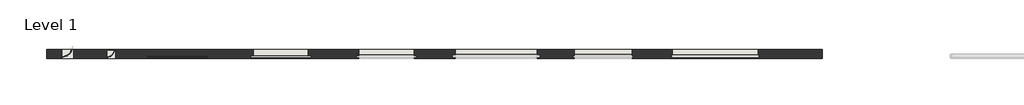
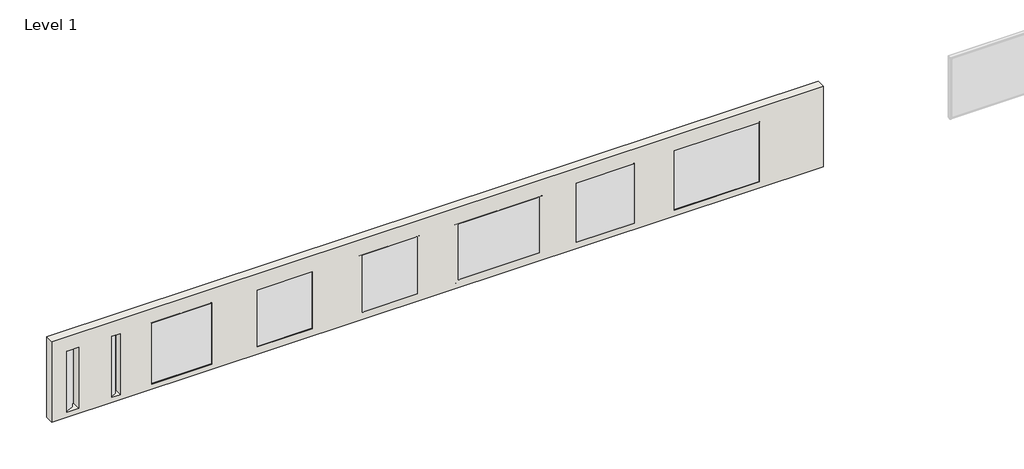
# One storey, part 1 of 2: 1 wall.
"""IFC4 building model written with IfcOpenShell, lengths in millimetres."""

from ifc_helpers import new_model, si_unit, frame, origin, place, context, project, spatial, polyline, circle_curve, element, save
from ifc_brep_helpers import plane_surface, cylinder_surface, revolved_surface, advanced_brep

model = new_model("IFC4")

# Units and contexts
model_context = context("Model", 3, world=origin())
ifc_project = project(units=[si_unit("LENGTHUNIT", "METRE", prefix="MILLI")], contexts=[model_context])

# Site, building, storey
site = spatial("IfcSite", under=ifc_project)
building = spatial("IfcBuilding", under=site)
storey = spatial("IfcBuildingStorey", under=building, Name="Level 1", Elevation=0.0)

# Wall
placement = place(None, origin())
element("IfcWall", 1, ObjectType="Exterior - Brick on Mtl. Stud", at=placement, inside=storey, context=model_context, shape_type="AdvancedBrep", body=[
    advanced_brep(
    [(-29372.0824741, 7342.6185098, 0.0), (1427.9175259, 7342.6185098, 0.0), (1427.9175259, 7342.6185098, 3397.25), (-29372.0824741, 7342.6185098, 3397.25), (-16976.2824741, 7342.6185098, 2703.5), (-14767.8824741, 7342.6185098, 2703.5), (-14767.8824741, 7342.6185098, 296.5), (-16976.2824741, 7342.6185098, 296.5), (-13146.2824741, 7342.6185098, 2673.5), (-9897.8824741, 7342.6185098, 2673.5), (-9897.8824741, 7342.6185098, 326.5), (-13146.2824741, 7342.6185098, 326.5), (-8426.2824741, 7342.6185098, 2754.2), (-6117.8824741, 7342.6185098, 2754.2), (-6117.8824741, 7342.6185098, 245.8), (-8426.2824741, 7342.6185098, 245.8), (-4522.0824741, 7342.6185098, 2750.0), (-1122.0824741, 7342.6185098, 2750.0), (-1122.0824741, 7342.6185098, 250.0), (-4522.0824741, 7342.6185098, 250.0), (-21172.0824741, 7342.6185098, 2700.0), (-18972.0824741, 7342.6185098, 2700.0), (-18972.0824741, 7342.6185098, 300.0), (-21172.0824741, 7342.6185098, 300.0), (-25372.0824741, 7342.6185098, 200.0), (-25372.0824741, 7342.6185098, 2774.5), (-22972.0824741, 7342.6185098, 2774.5), (-22972.0824741, 7342.6185098, 200.0), (-26972.0824741, 7342.6185098, 200.0), (-26972.0824741, 7342.6185098, 2774.5), (-26945.7955953, 7342.6185098, 2774.5), (-26945.7955953, 7342.6185098, 2770.0), (-26627.0824741, 7342.6185098, 2770.0), (-26627.0824741, 7342.6185098, 200.0), (-28772.0824741, 7342.6185098, 200.0), (-28772.0824741, 7342.6185098, 2774.5), (-28740.9216012, 7342.6185098, 2774.5), (-28740.9216012, 7342.6185098, 2770.0), (-28287.0824741, 7342.6185098, 2770.0), (-28287.0824741, 7342.6185098, 200.0), (1427.9175259, 7692.6185098, 0.0), (-29372.0824741, 7692.6185098, 0.0), (-29372.0824741, 7692.6185098, 3397.25), (1427.9175259, 7692.6185098, 3397.25), (-14767.8824741, 7692.6185098, 2703.5), (-16976.2824741, 7692.6185098, 2703.5), (-16976.2824741, 7692.6185098, 296.5), (-14767.8824741, 7692.6185098, 296.5), (-9897.8824741, 7692.6185098, 2673.5), (-13146.2824741, 7692.6185098, 2673.5), (-13146.2824741, 7692.6185098, 326.5), (-9897.8824741, 7692.6185098, 326.5), (-6117.8824741, 7692.6185098, 2754.2), (-8426.2824741, 7692.6185098, 2754.2), (-8426.2824741, 7692.6185098, 245.8), (-6117.8824741, 7692.6185098, 245.8), (-1122.0824741, 7692.6185098, 2750.0), (-4522.0824741, 7692.6185098, 2750.0), (-4522.0824741, 7692.6185098, 250.0), (-1122.0824741, 7692.6185098, 250.0), (-28772.0824741, 7692.6185098, 2770.0), (-28772.0824741, 7692.6185098, 200.0), (-28287.0824741, 7692.6185098, 200.0), (-28287.0824741, 7692.6185098, 2770.0), (-28305.2088296, 7692.6185098, 2770.0), (-28305.2088296, 7692.6185098, 2774.5), (-28331.8152257, 7692.6185098, 2774.5), (-28331.8152257, 7692.6185098, 2800.0), (-28374.8983229, 7692.6185098, 2800.0), (-28374.8983229, 7692.6185098, 2774.5), (-28400.8682503, 7692.6185098, 2774.5), (-28400.8682503, 7692.6185098, 2770.0), (-18972.0824741, 7692.6185098, 2700.0), (-21172.0824741, 7692.6185098, 2700.0), (-21172.0824741, 7692.6185098, 300.0), (-18972.0824741, 7692.6185098, 300.0), (-17072.0824741, 7463.1185098, 2800.0), (-17072.0824741, 7363.1185098, 2800.0), (-17072.0824741, 7363.1185098, 200.0), (-17072.0824741, 7463.1185098, 200.0), (-14672.0824741, 7363.1185098, 2800.0), (-14672.0824741, 7463.1185098, 2800.0), (-14672.0824741, 7463.1185098, 200.0), (-14672.0824741, 7363.1185098, 200.0), (-16976.2824741, 7463.1185098, 2703.5), (-14767.8824741, 7463.1185098, 2703.5), (-14767.8824741, 7463.1185098, 296.5), (-16976.2824741, 7463.1185098, 296.5), (-14767.8824741, 7363.1185098, 2703.5), (-16976.2824741, 7363.1185098, 2703.5), (-16976.2824741, 7363.1185098, 296.5), (-14767.8824741, 7363.1185098, 296.5), (-13272.0824741, 7493.1185097, 2800.0), (-13272.0824741, 7363.1185097, 2800.0), (-13272.0824741, 7363.1185097, 200.0), (-13272.0824741, 7493.1185097, 200.0), (-9772.0824741, 7363.1185097, 2800.0), (-9772.0824741, 7493.1185097, 2800.0), (-9772.0824741, 7493.1185097, 200.0), (-9772.0824741, 7363.1185097, 200.0), (-13146.2824741, 7493.1185097, 2673.5), (-9897.8824741, 7493.1185097, 2673.5), (-9897.8824741, 7493.1185097, 326.5), (-13146.2824741, 7493.1185097, 326.5), (-9897.8824741, 7363.1185097, 2673.5), (-13146.2824741, 7363.1185097, 2673.5), (-13146.2824741, 7363.1185097, 326.5), (-9897.8824741, 7363.1185097, 326.5), (-8472.0824741, 7467.6185098, 2800.0), (-8472.0824741, 7367.6185098, 2800.0), (-8472.0824741, 7367.6185098, 200.0), (-8472.0824741, 7467.6185098, 200.0), (-6072.0824741, 7367.6185098, 2800.0), (-6072.0824741, 7467.6185098, 2800.0), (-6072.0824741, 7467.6185098, 200.0), (-6072.0824741, 7367.6185098, 200.0), (-8426.2824741, 7467.6185098, 2754.2), (-6117.8824741, 7467.6185098, 2754.2), (-6117.8824741, 7467.6185098, 245.8), (-8426.2824741, 7467.6185098, 245.8), (-6117.8824741, 7367.6185098, 2754.2), (-8426.2824741, 7367.6185098, 2754.2), (-8426.2824741, 7367.6185098, 245.8), (-6117.8824741, 7367.6185098, 245.8), (-4572.0824741, 7493.1185097, 2800.0), (-4572.0824741, 7363.1185097, 2800.0), (-4572.0824741, 7363.1185097, 200.0), (-4572.0824741, 7493.1185097, 200.0), (-1072.0824741, 7363.1185097, 2800.0), (-1072.0824741, 7493.1185097, 2800.0), (-1072.0824741, 7493.1185097, 200.0), (-1072.0824741, 7363.1185097, 200.0), (-4522.0824741, 7493.1185097, 2750.0), (-1122.0824741, 7493.1185097, 2750.0), (-1122.0824741, 7493.1185097, 250.0), (-4522.0824741, 7493.1185097, 250.0), (-1122.0824741, 7363.1185097, 2750.0), (-4522.0824741, 7363.1185097, 2750.0), (-4522.0824741, 7363.1185097, 250.0), (-1122.0824741, 7363.1185097, 250.0), (-21272.0824741, 7463.1185098, 2800.0), (-21272.0824741, 7363.1185098, 2800.0), (-21272.0824741, 7363.1185098, 200.0), (-21272.0824741, 7463.1185098, 200.0), (-18872.0824741, 7363.1185098, 2800.0), (-18872.0824741, 7463.1185098, 2800.0), (-18872.0824741, 7463.1185098, 200.0), (-18872.0824741, 7363.1185098, 200.0), (-21172.0824741, 7463.1185098, 2700.0), (-18972.0824741, 7463.1185098, 2700.0), (-18972.0824741, 7463.1185098, 300.0), (-21172.0824741, 7463.1185098, 300.0), (-18972.0824741, 7363.1185098, 2700.0), (-21172.0824741, 7363.1185098, 2700.0), (-21172.0824741, 7363.1185098, 300.0), (-18972.0824741, 7363.1185098, 300.0), (-25372.0824741, 7432.6185098, 2774.5), (-25372.0824741, 7408.3100466, 2774.5), (-25372.0824741, 7408.3100466, 2800.0), (-25372.0824741, 7408.1185098, 2800.0), (-25372.0824741, 7367.1185098, 2800.0), (-25372.0824741, 7355.8473523, 2800.0), (-25372.0824741, 7355.8473523, 2774.5), (-25372.0824741, 7367.1185098, 200.0), (-25372.0824741, 7408.1185098, 200.0), (-25372.0824741, 7432.6185098, 200.0), (-22972.0824741, 7432.6185098, 2774.5), (-22972.0824741, 7432.6185098, 200.0), (-22972.0824741, 7408.1185098, 200.0), (-22972.0824741, 7367.1185098, 200.0), (-22972.0824741, 7355.8473523, 2774.5), (-22972.0824741, 7355.8473523, 2800.0), (-22972.0824741, 7367.1185098, 2800.0), (-22972.0824741, 7408.1185098, 2800.0), (-22972.0824741, 7408.3100466, 2800.0), (-22972.0824741, 7408.3100466, 2774.5), (-26717.0824741, 7687.6185098, 200.0), (-26717.0824741, 7688.4185098, 200.0), (-26972.0824741, 7688.4185098, 200.0), (-26627.0824741, 7661.331631, 200.0), (-26626.0824741, 7687.6185098, 200.0), (-26972.0824741, 7367.1185098, 2800.0), (-26922.0824741, 7367.1185098, 2800.0), (-26922.0824741, 7367.1185098, 2774.5), (-26972.0824741, 7367.1185098, 2774.5), (-26972.0824741, 7688.4185098, 2770.0), (-26972.0824741, 7432.6185098, 2770.0), (-26972.0824741, 7432.6185098, 2774.5), (-26972.0824741, 7408.1185098, 2774.5), (-26972.0824741, 7408.1185098, 2800.0), (-26922.0824741, 7371.0426895, 2800.0), (-26922.0824741, 7371.0426895, 2774.5), (-26651.5824741, 7637.6185098, 2800.0), (-26651.5824741, 7637.6185098, 2774.5), (-26655.5066538, 7637.6185098, 2774.5), (-26655.5066538, 7637.6185098, 2800.0), (-26651.5824741, 7687.6185098, 2800.0), (-26692.5824741, 7687.6185098, 2800.0), (-26692.5824741, 7687.6185098, 2774.5), (-26717.0824741, 7687.6185098, 2774.5), (-26717.0824741, 7687.6185098, 2770.0), (-26626.0824741, 7687.6185098, 2774.5), (-26651.5824741, 7687.6185098, 2774.5), (-26627.0824741, 7661.331631, 2770.0), (-26717.0824741, 7688.4185098, 2770.0), (-28772.0824741, 7367.1185098, 2800.0), (-28722.0824741, 7367.1185098, 2800.0), (-28722.0824741, 7367.1185098, 2774.5), (-28772.0824741, 7367.1185098, 2774.5), (-28772.0824741, 7432.6185098, 2770.0), (-28772.0824741, 7432.6185098, 2774.5), (-28772.0824741, 7408.1185098, 2774.5), (-28772.0824741, 7408.1185098, 2800.0), (-28722.0824741, 7369.8409983, 2800.0), (-28722.0824741, 7369.8409983, 2774.5)],
    [
        (0, 1),
        (1, 2),
        (2, 3),
        (3, 0),
        (4, 5),
        (5, 6),
        (6, 7),
        (7, 4),
        (8, 9),
        (9, 10),
        (10, 11),
        (11, 8),
        (12, 13),
        (13, 14),
        (14, 15),
        (15, 12),
        (16, 17),
        (17, 18),
        (18, 19),
        (19, 16),
        (20, 21),
        (21, 22),
        (22, 23),
        (23, 20),
        (24, 25),
        (25, 26),
        (26, 27),
        (27, 24),
        (28, 29),
        (29, 30),
        (30, 31),
        (31, 32),
        (32, 33),
        (33, 28),
        (34, 35),
        (35, 36),
        (36, 37),
        (37, 38),
        (38, 39),
        (39, 34),
        (40, 41),
        (41, 42),
        (42, 43),
        (43, 40),
        (44, 45),
        (45, 46),
        (46, 47),
        (47, 44),
        (48, 49),
        (49, 50),
        (50, 51),
        (51, 48),
        (52, 53),
        (53, 54),
        (54, 55),
        (55, 52),
        (56, 57),
        (57, 58),
        (58, 59),
        (59, 56),
        (60, 61),
        (61, 62),
        (62, 63),
        (63, 64),
        (64, 65),
        (65, 66),
        (66, 67),
        (67, 68),
        (68, 69),
        (69, 70),
        (70, 71),
        (71, 60),
        (72, 73),
        (73, 74),
        (74, 75),
        (75, 72),
        (0, 41),
        (40, 1),
        (43, 2),
        (42, 3),
        (76, 77),
        (77, 78),
        (78, 79),
        (79, 76),
        (80, 81),
        (81, 82),
        (82, 83),
        (83, 80),
        (76, 81),
        (80, 77),
        (79, 82),
        (84, 85),
        (85, 86),
        (86, 87),
        (87, 84),
        (83, 78),
        (88, 89),
        (89, 90),
        (90, 91),
        (91, 88),
        (84, 45),
        (44, 85),
        (87, 46),
        (86, 47),
        (88, 5),
        (4, 89),
        (7, 90),
        (6, 91),
        (92, 93),
        (93, 94),
        (94, 95),
        (95, 92),
        (96, 97),
        (97, 98),
        (98, 99),
        (99, 96),
        (92, 97),
        (96, 93),
        (95, 98),
        (100, 101),
        (101, 102),
        (102, 103),
        (103, 100),
        (99, 94),
        (104, 105),
        (105, 106),
        (106, 107),
        (107, 104),
        (100, 49),
        (48, 101),
        (103, 50),
        (102, 51),
        (104, 9),
        (8, 105),
        (11, 106),
        (10, 107),
        (108, 109),
        (109, 110),
        (110, 111),
        (111, 108),
        (112, 113),
        (113, 114),
        (114, 115),
        (115, 112),
        (108, 113),
        (112, 109),
        (111, 114),
        (116, 117),
        (117, 118),
        (118, 119),
        (119, 116),
        (115, 110),
        (120, 121),
        (121, 122),
        (122, 123),
        (123, 120),
        (116, 53),
        (52, 117),
        (119, 54),
        (118, 55),
        (120, 13),
        (12, 121),
        (15, 122),
        (14, 123),
        (124, 125),
        (125, 126),
        (126, 127),
        (127, 124),
        (128, 129),
        (129, 130),
        (130, 131),
        (131, 128),
        (124, 129),
        (128, 125),
        (127, 130),
        (132, 133),
        (133, 134),
        (134, 135),
        (135, 132),
        (131, 126),
        (136, 137),
        (137, 138),
        (138, 139),
        (139, 136),
        (132, 57),
        (56, 133),
        (135, 58),
        (134, 59),
        (136, 17),
        (16, 137),
        (19, 138),
        (18, 139),
        (140, 141),
        (141, 142),
        (142, 143),
        (143, 140),
        (144, 145),
        (145, 146),
        (146, 147),
        (147, 144),
        (140, 145),
        (144, 141),
        (143, 146),
        (148, 149),
        (149, 150),
        (150, 151),
        (151, 148),
        (147, 142),
        (152, 153),
        (153, 154),
        (154, 155),
        (155, 152),
        (148, 73),
        (72, 149),
        (152, 21),
        (20, 153),
        (156, 157),
        (157, 158),
        (158, 159),
        (159, 160),
        (160, 161),
        (161, 162),
        (162, 25),
        (24, 163),
        (163, 164),
        (164, 165),
        (165, 156),
        (166, 167),
        (167, 168),
        (168, 169),
        (169, 27),
        (26, 170),
        (170, 171),
        (171, 172),
        (172, 173),
        (173, 174),
        (174, 175),
        (175, 166),
        (165, 167),
        (166, 156),
        (162, 170),
        (161, 171),
        (158, 174),
        (157, 175),
        (176, 177),
        (177, 178),
        (178, 28),
        (33, 179),
        (179, 180, circle_curve(frame((-26972.0824741, 7687.6185098, 200.0), z_axis=(0.0, 0.0, 1.0), x_axis=(0.0, -1.0, 0.0)), 346.0)),
        (180, 176),
        (181, 182),
        (182, 183),
        (183, 184),
        (184, 181),
        (184, 29),
        (178, 185),
        (185, 186),
        (186, 187),
        (187, 188),
        (188, 189),
        (189, 181),
        (182, 190),
        (190, 191),
        (191, 183),
        (192, 193),
        (193, 194),
        (194, 195),
        (195, 192),
        (196, 197),
        (197, 198),
        (198, 199),
        (199, 200),
        (200, 176),
        (180, 201),
        (201, 202),
        (202, 196),
        (192, 196),
        (202, 193),
        (189, 197, circle_curve(frame((-26972.0824741, 7687.6185098, 2800.0), z_axis=(0.0, 0.0, 1.0), x_axis=(0.0, -1.0, 0.0)), 279.5)),
        (195, 190, circle_curve(frame((-26972.0824741, 7687.6185098, 2800.0), z_axis=(0.0, 0.0, -1.0), x_axis=(0.0, -1.0, 0.0)), 320.5)),
        (30, 201, circle_curve(frame((-26972.0824741, 7687.6185098, 2774.5), z_axis=(0.0, 0.0, 1.0), x_axis=(0.0, -1.0, 0.0)), 346.0)),
        (179, 203),
        (203, 31, circle_curve(frame((-26972.0824741, 7687.6185098, 2770.0), z_axis=(0.0, 0.0, -1.0), x_axis=(0.0, -1.0, 0.0)), 346.0)),
        (191, 194, circle_curve(frame((-26972.0824741, 7687.6185098, 2774.5), z_axis=(0.0, 0.0, 1.0), x_axis=(0.0, -1.0, 0.0)), 320.5)),
        (188, 198, circle_curve(frame((-26972.0824741, 7687.6185098, 2774.5), z_axis=(0.0, 0.0, 1.0), x_axis=(0.0, -1.0, 0.0)), 279.5)),
        (187, 199, circle_curve(frame((-26972.0824741, 7687.6185098, 2774.5), z_axis=(0.0, 0.0, 1.0), x_axis=(0.0, -1.0, 0.0)), 255.0)),
        (186, 200, circle_curve(frame((-26972.0824741, 7687.6185098, 2770.0), z_axis=(0.0, 0.0, 1.0), x_axis=(0.0, -1.0, 0.0)), 255.0)),
        (185, 204),
        (204, 200),
        (203, 32),
        (177, 204),
        (61, 34),
        (39, 62),
        (205, 206),
        (206, 207),
        (207, 208),
        (208, 205),
        (208, 35),
        (60, 209),
        (209, 210),
        (210, 211),
        (211, 212),
        (212, 205),
        (206, 213),
        (213, 214),
        (214, 207),
        (212, 68, circle_curve(frame((-28772.0824741, 7827.6185098, 2800.0), z_axis=(0.0, 0.0, 1.0), x_axis=(0.0, -1.0, 0.0)), 419.5)),
        (67, 213, circle_curve(frame((-28772.0824741, 7827.6185098, 2800.0), z_axis=(0.0, 0.0, -1.0), x_axis=(0.0, -1.0, 0.0)), 460.5)),
        (36, 65, circle_curve(frame((-28772.0824741, 7827.6185098, 2774.5), z_axis=(0.0, 0.0, 1.0), x_axis=(0.0, -1.0, 0.0)), 486.0)),
        (64, 37, circle_curve(frame((-28772.0824741, 7827.6185098, 2770.0), z_axis=(0.0, 0.0, -1.0), x_axis=(0.0, -1.0, 0.0)), 486.0)),
        (214, 66, circle_curve(frame((-28772.0824741, 7827.6185098, 2774.5), z_axis=(0.0, 0.0, 1.0), x_axis=(0.0, -1.0, 0.0)), 460.5)),
        (211, 69, circle_curve(frame((-28772.0824741, 7827.6185098, 2774.5), z_axis=(0.0, 0.0, 1.0), x_axis=(0.0, -1.0, 0.0)), 419.5)),
        (210, 70, circle_curve(frame((-28772.0824741, 7827.6185098, 2774.5), z_axis=(0.0, 0.0, 1.0), x_axis=(0.0, -1.0, 0.0)), 395.0)),
        (209, 71, circle_curve(frame((-28772.0824741, 7827.6185098, 2770.0), z_axis=(0.0, 0.0, 1.0), x_axis=(0.0, -1.0, 0.0)), 395.0)),
        (63, 38),
        (150, 75),
        (74, 151),
        (154, 23),
        (22, 155),
    ],
    [
        plane_surface(frame((-17572.0824741, 7342.6185098, 0.0), z_axis=(0.0, -1.0, 0.0), x_axis=(1.0, 0.0, 0.0))),
        plane_surface(frame((-17572.0824741, 7692.6185098, 0.0), z_axis=(0.0, 1.0, 0.0), x_axis=(-1.0, 0.0, 0.0))),
        plane_surface(frame((-29372.0824741, 7342.6185098, 0.0), z_axis=(0.0, 0.0, -1.0), x_axis=(0.0, 1.0, 0.0))),
        plane_surface(frame((1427.9175259, 7342.6185098, 0.0), z_axis=(1.0, 0.0, 0.0), x_axis=(0.0, 1.0, 0.0))),
        plane_surface(frame((1427.9175259, 7342.6185098, 3397.25), z_axis=(0.0, 0.0, 1.0), x_axis=(0.0, 1.0, 0.0))),
        plane_surface(frame((-29372.0824741, 7342.6185098, 3397.25), z_axis=(-1.0, 0.0, 0.0), x_axis=(0.0, 1.0, 0.0))),
        plane_surface(frame((-17072.0824741, 7363.1185098, 2800.0), z_axis=(1.0, 0.0, 0.0), x_axis=(0.0, -1.0, 0.0))),
        plane_surface(frame((-14672.0824741, 7363.1185098, 2800.0), z_axis=(-1.0, 0.0, 0.0), x_axis=(0.0, -1.0, 0.0))),
        plane_surface(frame((-17072.0824741, 7363.1185098, 2800.0), z_axis=(0.0, 0.0, -1.0), x_axis=(1.0, 0.0, 0.0))),
        plane_surface(frame((-17072.0824741, 7463.1185098, 2800.0), z_axis=(0.0, -1.0, 0.0), x_axis=(1.0, 0.0, 0.0))),
        plane_surface(frame((-17072.0824741, 7363.1185098, 2700.0), z_axis=(0.0, 1.0, 0.0), x_axis=(1.0, 0.0, 0.0))),
        plane_surface(frame((-17072.0824741, 7363.1185098, 200.0), z_axis=(0.0, 0.0, 1.0), x_axis=(0.0, -1.0, 0.0))),
        plane_surface(frame((-14767.8824741, 7463.1185098, 2703.5), z_axis=(0.0, 0.0, -1.0), x_axis=(0.0, 1.0, 0.0))),
        plane_surface(frame((-16976.2824741, 7463.1185098, 2703.5), z_axis=(1.0, 0.0, 0.0), x_axis=(0.0, 1.0, 0.0))),
        plane_surface(frame((-16976.2824741, 7463.1185098, 296.5), z_axis=(0.0, 0.0, 1.0), x_axis=(0.0, 1.0, 0.0))),
        plane_surface(frame((-14767.8824741, 7463.1185098, 296.5), z_axis=(-1.0, 0.0, 0.0), x_axis=(0.0, 1.0, 0.0))),
        plane_surface(frame((-14767.8824741, 7341.6185098, 2703.5), z_axis=(0.0, 0.0, -1.0), x_axis=(0.0, 1.0, 0.0))),
        plane_surface(frame((-16976.2824741, 7341.6185098, 2703.5), z_axis=(1.0, 0.0, 0.0), x_axis=(0.0, 1.0, 0.0))),
        plane_surface(frame((-16976.2824741, 7341.6185098, 296.5), z_axis=(0.0, 0.0, 1.0), x_axis=(0.0, 1.0, 0.0))),
        plane_surface(frame((-14767.8824741, 7341.6185098, 296.5), z_axis=(-1.0, 0.0, 0.0), x_axis=(0.0, 1.0, 0.0))),
        plane_surface(frame((-13272.0824741, 7363.1185098, 2800.0), z_axis=(1.0, 0.0, 0.0), x_axis=(0.0, -1.0, 0.0))),
        plane_surface(frame((-9772.0824741, 7363.1185098, 2800.0), z_axis=(-1.0, 0.0, 0.0), x_axis=(0.0, -1.0, 0.0))),
        plane_surface(frame((-13272.0824741, 7363.1185097, 2800.0), z_axis=(0.0, 0.0, -1.0), x_axis=(1.0, 0.0, 0.0))),
        plane_surface(frame((-13272.0824741, 7493.1185097, 2800.0), z_axis=(0.0, -1.0, 0.0), x_axis=(1.0, 0.0, 0.0))),
        plane_surface(frame((-13272.0824741, 7363.1185097, 2670.0), z_axis=(0.0, 1.0, 0.0), x_axis=(1.0, 0.0, 0.0))),
        plane_surface(frame((-13272.0824741, 7363.1185098, 200.0), z_axis=(0.0, 0.0, 1.0), x_axis=(0.0, -1.0, 0.0))),
        plane_surface(frame((-9897.8824741, 7493.1185098, 2673.5), z_axis=(0.0, 0.0, -1.0), x_axis=(0.0, 1.0, 0.0))),
        plane_surface(frame((-13146.2824741, 7493.1185098, 2673.5), z_axis=(1.0, 0.0, 0.0), x_axis=(0.0, 1.0, 0.0))),
        plane_surface(frame((-13146.2824741, 7493.1185098, 326.5), z_axis=(0.0, 0.0, 1.0), x_axis=(0.0, 1.0, 0.0))),
        plane_surface(frame((-9897.8824741, 7493.1185098, 326.5), z_axis=(-1.0, 0.0, 0.0), x_axis=(0.0, 1.0, 0.0))),
        plane_surface(frame((-9897.8824741, 7341.6185098, 2673.5), z_axis=(0.0, 0.0, -1.0), x_axis=(0.0, 1.0, 0.0))),
        plane_surface(frame((-13146.2824741, 7341.6185098, 2673.5), z_axis=(1.0, 0.0, 0.0), x_axis=(0.0, 1.0, 0.0))),
        plane_surface(frame((-13146.2824741, 7341.6185098, 326.5), z_axis=(0.0, 0.0, 1.0), x_axis=(0.0, 1.0, 0.0))),
        plane_surface(frame((-9897.8824741, 7341.6185098, 326.5), z_axis=(-1.0, 0.0, 0.0), x_axis=(0.0, 1.0, 0.0))),
        plane_surface(frame((-8472.0824741, 7367.6185098, 2800.0), z_axis=(1.0, 0.0, 0.0), x_axis=(0.0, -1.0, 0.0))),
        plane_surface(frame((-6072.0824741, 7367.6185098, 2800.0), z_axis=(-1.0, 0.0, 0.0), x_axis=(0.0, -1.0, 0.0))),
        plane_surface(frame((-8472.0824741, 7367.6185098, 2800.0), z_axis=(0.0, 0.0, -1.0), x_axis=(1.0, 0.0, 0.0))),
        plane_surface(frame((-8472.0824741, 7467.6185098, 2800.0), z_axis=(0.0, -1.0, 0.0), x_axis=(1.0, 0.0, 0.0))),
        plane_surface(frame((-8472.0824741, 7367.6185098, 2750.0), z_axis=(0.0, 1.0, 0.0), x_axis=(1.0, 0.0, 0.0))),
        plane_surface(frame((-8472.0824741, 7367.6185098, 200.0), z_axis=(0.0, 0.0, 1.0), x_axis=(0.0, -1.0, 0.0))),
        plane_surface(frame((-6117.8824741, 7467.6185098, 2754.2), z_axis=(0.0, 0.0, -1.0), x_axis=(0.0, 1.0, 0.0))),
        plane_surface(frame((-8426.2824741, 7467.6185098, 2754.2), z_axis=(1.0, 0.0, 0.0), x_axis=(0.0, 1.0, 0.0))),
        plane_surface(frame((-8426.2824741, 7467.6185098, 245.8), z_axis=(0.0, 0.0, 1.0), x_axis=(0.0, 1.0, 0.0))),
        plane_surface(frame((-6117.8824741, 7467.6185098, 245.8), z_axis=(-1.0, 0.0, 0.0), x_axis=(0.0, 1.0, 0.0))),
        plane_surface(frame((-6117.8824741, 7341.6185098, 2754.2), z_axis=(0.0, 0.0, -1.0), x_axis=(0.0, 1.0, 0.0))),
        plane_surface(frame((-8426.2824741, 7341.6185098, 2754.2), z_axis=(1.0, 0.0, 0.0), x_axis=(0.0, 1.0, 0.0))),
        plane_surface(frame((-8426.2824741, 7341.6185098, 245.8), z_axis=(0.0, 0.0, 1.0), x_axis=(0.0, 1.0, 0.0))),
        plane_surface(frame((-6117.8824741, 7341.6185098, 245.8), z_axis=(-1.0, 0.0, 0.0), x_axis=(0.0, 1.0, 0.0))),
        plane_surface(frame((-4572.0824741, 7363.1185098, 2800.0), z_axis=(1.0, 0.0, 0.0), x_axis=(0.0, -1.0, 0.0))),
        plane_surface(frame((-1072.0824741, 7363.1185098, 2800.0), z_axis=(-1.0, 0.0, 0.0), x_axis=(0.0, -1.0, 0.0))),
        plane_surface(frame((-4572.0824741, 7363.1185097, 2800.0), z_axis=(0.0, 0.0, -1.0), x_axis=(1.0, 0.0, 0.0))),
        plane_surface(frame((-4572.0824741, 7493.1185097, 2800.0), z_axis=(0.0, -1.0, 0.0), x_axis=(1.0, 0.0, 0.0))),
        plane_surface(frame((-4572.0824741, 7363.1185097, 2750.0), z_axis=(0.0, 1.0, 0.0), x_axis=(1.0, 0.0, 0.0))),
        plane_surface(frame((-4572.0824741, 7363.1185098, 200.0), z_axis=(0.0, 0.0, 1.0), x_axis=(0.0, -1.0, 0.0))),
        plane_surface(frame((-1122.0824741, 7493.1185098, 2750.0), z_axis=(0.0, 0.0, -1.0), x_axis=(0.0, 1.0, 0.0))),
        plane_surface(frame((-4522.0824741, 7493.1185098, 2750.0), z_axis=(1.0, 0.0, 0.0), x_axis=(0.0, 1.0, 0.0))),
        plane_surface(frame((-4522.0824741, 7493.1185098, 250.0), z_axis=(0.0, 0.0, 1.0), x_axis=(0.0, 1.0, 0.0))),
        plane_surface(frame((-1122.0824741, 7493.1185098, 250.0), z_axis=(-1.0, 0.0, 0.0), x_axis=(0.0, 1.0, 0.0))),
        plane_surface(frame((-1122.0824741, 7341.6185098, 2750.0), z_axis=(0.0, 0.0, -1.0), x_axis=(0.0, 1.0, 0.0))),
        plane_surface(frame((-4522.0824741, 7341.6185098, 2750.0), z_axis=(1.0, 0.0, 0.0), x_axis=(0.0, 1.0, 0.0))),
        plane_surface(frame((-4522.0824741, 7341.6185098, 250.0), z_axis=(0.0, 0.0, 1.0), x_axis=(0.0, 1.0, 0.0))),
        plane_surface(frame((-1122.0824741, 7341.6185098, 250.0), z_axis=(-1.0, 0.0, 0.0), x_axis=(0.0, 1.0, 0.0))),
        plane_surface(frame((-21272.0824741, 7363.1185098, 2800.0), z_axis=(1.0, 0.0, 0.0), x_axis=(0.0, -1.0, 0.0))),
        plane_surface(frame((-18872.0824741, 7363.1185098, 2800.0), z_axis=(-1.0, 0.0, 0.0), x_axis=(0.0, -1.0, 0.0))),
        plane_surface(frame((-21272.0824741, 7363.1185098, 2800.0), z_axis=(0.0, 0.0, -1.0), x_axis=(1.0, 0.0, 0.0))),
        plane_surface(frame((-21272.0824741, 7463.1185098, 2800.0), z_axis=(0.0, -1.0, 0.0), x_axis=(1.0, 0.0, 0.0))),
        plane_surface(frame((-21272.0824741, 7363.1185098, 2700.0), z_axis=(0.0, 1.0, 0.0), x_axis=(1.0, 0.0, 0.0))),
        plane_surface(frame((-21272.0824741, 7363.1185098, 200.0), z_axis=(0.0, 0.0, 1.0), x_axis=(0.0, -1.0, 0.0))),
        plane_surface(frame((-18972.0824741, 7463.1185098, 2700.0), z_axis=(0.0, 0.0, -1.0), x_axis=(0.0, 1.0, 0.0))),
        plane_surface(frame((-18972.0824741, 7341.6185098, 2700.0), z_axis=(0.0, 0.0, -1.0), x_axis=(0.0, 1.0, 0.0))),
        plane_surface(frame((-25372.0824741, 7367.1185098, 2800.0), z_axis=(1.0, 0.0, 0.0), x_axis=(0.0, -1.0, 0.0))),
        plane_surface(frame((-22972.0824741, 7367.1185098, 2800.0), z_axis=(-1.0, 0.0, 0.0), x_axis=(0.0, -1.0, 0.0))),
        plane_surface(frame((-25372.0824741, 7432.6185098, 2774.5), z_axis=(0.0, -1.0, 0.0), x_axis=(1.0, 0.0, 0.0))),
        plane_surface(frame((-25372.0824741, 7432.6185098, 200.0), z_axis=(0.0, 0.0, 1.0), x_axis=(1.0, 0.0, 0.0))),
        plane_surface(frame((-25372.0824741, 7341.6185098, 2774.5), z_axis=(0.0, 0.0, -1.0), x_axis=(1.0, 0.0, 0.0))),
        plane_surface(frame((-25372.0824741, 7355.8473523, 2774.5), z_axis=(0.0, 1.0, 0.0), x_axis=(1.0, 0.0, 0.0))),
        plane_surface(frame((-25372.0824741, 7355.8473523, 2800.0), z_axis=(0.0, 0.0, -1.0), x_axis=(1.0, 0.0, 0.0))),
        plane_surface(frame((-25372.0824741, 7408.3100466, 2800.0), z_axis=(0.0, -1.0, 0.0), x_axis=(1.0, 0.0, 0.0))),
        plane_surface(frame((-25372.0824741, 7408.3100466, 2774.5), z_axis=(0.0, 0.0, -1.0), x_axis=(1.0, 0.0, 0.0))),
        plane_surface(frame((-26972.0824741, 7367.1185098, 200.0), z_axis=(0.0, 0.0, 1.0), x_axis=(-1.0, 0.0, 0.0))),
        plane_surface(frame((-26922.0824741, 7367.1185098, 200.0), z_axis=(0.0, 1.0, 0.0), x_axis=(0.0, 0.0, 1.0))),
        plane_surface(frame((-26972.0824741, 7367.1185098, 200.0), z_axis=(1.0, 0.0, 0.0), x_axis=(0.0, 0.0, 1.0))),
        plane_surface(frame((-26922.0824741, 7408.1185098, 200.0), z_axis=(-1.0, 0.0, 0.0), x_axis=(0.0, 0.0, 1.0))),
        plane_surface(frame((-26651.5824741, 7637.6185098, 200.0), z_axis=(0.0, 1.0, 0.0), x_axis=(0.0, 0.0, 1.0))),
        plane_surface(frame((-26692.5824741, 7687.6185098, 200.0), z_axis=(0.0, -1.0, 0.0), x_axis=(0.0, 0.0, 1.0))),
        plane_surface(frame((-26651.5824741, 7687.6185098, 200.0), z_axis=(-1.0, 0.0, 0.0), x_axis=(0.0, 0.0, 1.0))),
        plane_surface(frame((-26972.0824741, 7367.1185098, 2800.0), z_axis=(0.0, 0.0, -1.0), x_axis=(1.0, 0.0, 0.0))),
        revolved_surface(polyline([(-26972.0824741, 7341.6185098, 2774.5), (-26972.0824741, 7341.6185098, 200.0)]), (-26972.0824741, 7687.6185098, 2800.0), (0.0, 0.0, 1.0)),
        plane_surface(frame((-26972.0824741, 7687.6185098, 2774.5), z_axis=(0.0, 0.0, -1.0), x_axis=(0.0, -1.0, 0.0))),
        revolved_surface(polyline([(-26972.0824741, 7367.1185098, 2800.0), (-26972.0824741, 7367.1185098, 2774.5)]), (-26972.0824741, 7687.6185098, 2800.0), (0.0, 0.0, 1.0)),
        cylinder_surface(frame((-26972.0824741, 7687.6185098, 2800.0), z_axis=(0.0, 0.0, 1.0), x_axis=(0.0, -1.0, 0.0)), 279.5),
        cylinder_surface(frame((-26972.0824741, 7687.6185098, 2800.0), z_axis=(0.0, 0.0, 1.0), x_axis=(0.0, -1.0, 0.0)), 255.0),
        plane_surface(frame((-26972.0824741, 7688.4185098, 2770.0), z_axis=(0.0, 0.0, -1.0), x_axis=(-1.0, 0.0, 0.0))),
        plane_surface(frame((-26972.0824741, 7688.4185098, 200.0), z_axis=(0.0, -1.0, 0.0), x_axis=(0.0, 0.0, 1.0))),
        plane_surface(frame((-26717.0824741, 7688.4185098, 200.0), z_axis=(-1.0, 0.0, 0.0), x_axis=(0.0, 0.0, 1.0))),
        plane_surface(frame((-26627.0824741, 7687.6185098, 200.0), z_axis=(-1.0, 0.0, 0.0), x_axis=(0.0, 0.0, 1.0))),
        plane_surface(frame((-28772.0824741, 7367.1185098, 200.0), z_axis=(0.0, 0.0, 1.0), x_axis=(-1.0, 0.0, 0.0))),
        plane_surface(frame((-28722.0824741, 7367.1185098, 200.0), z_axis=(0.0, 1.0, 0.0), x_axis=(0.0, 0.0, 1.0))),
        plane_surface(frame((-28772.0824741, 7367.1185098, 200.0), z_axis=(1.0, 0.0, 0.0), x_axis=(0.0, 0.0, 1.0))),
        plane_surface(frame((-28722.0824741, 7408.1185098, 200.0), z_axis=(-1.0, 0.0, 0.0), x_axis=(0.0, 0.0, 1.0))),
        plane_surface(frame((-28772.0824741, 7367.1185098, 2800.0), z_axis=(0.0, 0.0, -1.0), x_axis=(1.0, 0.0, 0.0))),
        revolved_surface(polyline([(-28772.0824741, 7341.6185098, 2774.5), (-28772.0824741, 7341.6185098, 2770.0)]), (-28772.0824741, 7827.6185098, 2800.0), (0.0, 0.0, 1.0)),
        plane_surface(frame((-28772.0824741, 7827.6185098, 2774.5), z_axis=(0.0, 0.0, -1.0), x_axis=(0.0, -1.0, 0.0))),
        revolved_surface(polyline([(-28772.0824741, 7367.1185098, 2800.0), (-28772.0824741, 7367.1185098, 2774.5)]), (-28772.0824741, 7827.6185098, 2800.0), (0.0, 0.0, 1.0)),
        cylinder_surface(frame((-28772.0824741, 7827.6185098, 2800.0), z_axis=(0.0, 0.0, 1.0), x_axis=(0.0, -1.0, 0.0)), 419.5),
        cylinder_surface(frame((-28772.0824741, 7827.6185098, 2800.0), z_axis=(0.0, 0.0, 1.0), x_axis=(0.0, -1.0, 0.0)), 395.0),
        plane_surface(frame((-28772.0824741, 7828.4185098, 2770.0), z_axis=(0.0, 0.0, -1.0), x_axis=(-1.0, 0.0, 0.0))),
        plane_surface(frame((-28287.0824741, 7827.6185098, 200.0), z_axis=(-1.0, 0.0, 0.0), x_axis=(0.0, 0.0, 1.0))),
        plane_surface(frame((-21172.0824741, 7463.1185098, 300.0), z_axis=(0.0, 0.0, 1.0), x_axis=(0.0, 1.0, 0.0))),
        plane_surface(frame((-21172.0824741, 7341.6185098, 300.0), z_axis=(0.0, 0.0, 1.0), x_axis=(0.0, 1.0, 0.0))),
        plane_surface(frame((-18972.0824741, 7463.1185098, 300.0), z_axis=(-1.0, 0.0, 0.0), x_axis=(0.0, 1.0, 0.0))),
        plane_surface(frame((-18972.0824741, 7341.6185098, 300.0), z_axis=(-1.0, 0.0, 0.0), x_axis=(0.0, 1.0, 0.0))),
        plane_surface(frame((-21172.0824741, 7463.1185098, 2700.0), z_axis=(1.0, 0.0, 0.0), x_axis=(0.0, 1.0, 0.0))),
        plane_surface(frame((-21172.0824741, 7341.6185098, 2700.0), z_axis=(1.0, 0.0, 0.0), x_axis=(0.0, 1.0, 0.0))),
    ],
    [
        (0, [[1, 2, 3, 4], [5, 6, 7, 8], [9, 10, 11, 12], [13, 14, 15, 16], [17, 18, 19, 20], [21, 22, 23, 24], [25, 26, 27, 28], [29, 30, 31, 32, 33, 34], [35, 36, 37, 38, 39, 40]]),
        (1, [[41, 42, 43, 44], [45, 46, 47, 48], [49, 50, 51, 52], [53, 54, 55, 56], [57, 58, 59, 60], [61, 62, 63, 64, 65, 66, 67, 68, 69, 70, 71, 72], [73, 74, 75, 76]]),
        (2, [[-1, 77, -41, 78]]),
        (3, [[-2, -78, -44, 79]]),
        (4, [[-3, -79, -43, 80]]),
        (5, [[-4, -80, -42, -77]]),
        (6, [[81, 82, 83, 84]]),
        (7, [[85, 86, 87, 88]]),
        (8, [[-81, 89, -85, 90]]),
        (9, [[-84, 91, -86, -89], [92, 93, 94, 95]]),
        (10, [[-82, -90, -88, 96], [97, 98, 99, 100]]),
        (11, [[-83, -96, -87, -91]]),
        (12, [[-92, 101, -45, 102]]),
        (13, [[-95, 103, -46, -101]]),
        (14, [[-94, 104, -47, -103]]),
        (15, [[-93, -102, -48, -104]]),
        (16, [[-97, 105, -5, 106]]),
        (17, [[-98, -106, -8, 107]]),
        (18, [[-99, -107, -7, 108]]),
        (19, [[-100, -108, -6, -105]]),
        (20, [[109, 110, 111, 112]]),
        (21, [[113, 114, 115, 116]]),
        (22, [[-109, 117, -113, 118]]),
        (23, [[-112, 119, -114, -117], [120, 121, 122, 123]]),
        (24, [[-110, -118, -116, 124], [125, 126, 127, 128]]),
        (25, [[-111, -124, -115, -119]]),
        (26, [[-120, 129, -49, 130]]),
        (27, [[-123, 131, -50, -129]]),
        (28, [[-122, 132, -51, -131]]),
        (29, [[-121, -130, -52, -132]]),
        (30, [[-125, 133, -9, 134]]),
        (31, [[-126, -134, -12, 135]]),
        (32, [[-127, -135, -11, 136]]),
        (33, [[-128, -136, -10, -133]]),
        (34, [[137, 138, 139, 140]]),
        (35, [[141, 142, 143, 144]]),
        (36, [[-137, 145, -141, 146]]),
        (37, [[-140, 147, -142, -145], [148, 149, 150, 151]]),
        (38, [[-138, -146, -144, 152], [153, 154, 155, 156]]),
        (39, [[-139, -152, -143, -147]]),
        (40, [[-148, 157, -53, 158]]),
        (41, [[-151, 159, -54, -157]]),
        (42, [[-150, 160, -55, -159]]),
        (43, [[-149, -158, -56, -160]]),
        (44, [[-153, 161, -13, 162]]),
        (45, [[-154, -162, -16, 163]]),
        (46, [[-155, -163, -15, 164]]),
        (47, [[-156, -164, -14, -161]]),
        (48, [[165, 166, 167, 168]]),
        (49, [[169, 170, 171, 172]]),
        (50, [[-165, 173, -169, 174]]),
        (51, [[-168, 175, -170, -173], [176, 177, 178, 179]]),
        (52, [[-166, -174, -172, 180], [181, 182, 183, 184]]),
        (53, [[-167, -180, -171, -175]]),
        (54, [[-176, 185, -57, 186]]),
        (55, [[-179, 187, -58, -185]]),
        (56, [[-178, 188, -59, -187]]),
        (57, [[-177, -186, -60, -188]]),
        (58, [[-181, 189, -17, 190]]),
        (59, [[-182, -190, -20, 191]]),
        (60, [[-183, -191, -19, 192]]),
        (61, [[-184, -192, -18, -189]]),
        (62, [[193, 194, 195, 196]]),
        (63, [[197, 198, 199, 200]]),
        (64, [[-193, 201, -197, 202]]),
        (65, [[-201, -196, 203, -198], [204, 205, 206, 207]]),
        (66, [[-202, -200, 208, -194], [209, 210, 211, 212]]),
        (67, [[-195, -208, -199, -203]]),
        (68, [[-204, 213, -73, 214]]),
        (69, [[-209, 215, -21, 216]]),
        (70, [[217, 218, 219, 220, 221, 222, 223, -25, 224, 225, 226, 227]]),
        (71, [[228, 229, 230, 231, -27, 232, 233, 234, 235, 236, 237, 238]]),
        (72, [[-227, 239, -228, 240]]),
        (73, [[-225, -224, -28, -231, -230, -229, -239, -226]]),
        (74, [[241, -232, -26, -223]]),
        (75, [[-222, 242, -233, -241]]),
        (76, [[-219, 243, -236, -235, -234, -242, -221, -220]]),
        (77, [[-218, 244, -237, -243]]),
        (78, [[-217, -240, -238, -244]]),
        (79, [[245, 246, 247, -34, 248, 249, 250]]),
        (80, [[251, 252, 253, 254]]),
        (81, [[-254, 255, -29, -247, 256, 257, 258, 259, 260, 261]]),
        (82, [[-252, 262, 263, 264]]),
        (83, [[265, 266, 267, 268]]),
        (84, [[269, 270, 271, 272, 273, -250, 274, 275, 276]]),
        (85, [[-265, 277, -276, 278]]),
        (86, [[-251, -261, 279, -269, -277, -268, 280, -262]]),
        (87, [[-31, 281, -274, -249, 282, 283]]),
        (88, [[-253, -264, 284, -266, -278, -275, -281, -30, -255]]),
        (89, [[-263, -280, -267, -284]]),
        (90, [[-260, 285, -270, -279]]),
        (88, [[-259, 286, -271, -285]]),
        (91, [[-258, 287, -272, -286]]),
        (92, [[-257, 288, 289, -287]]),
        (92, [[-32, -283, 290]]),
        (93, [[-246, 291, -288, -256]]),
        (94, [[-245, -273, -289, -291]]),
        (95, [[-33, -290, -282, -248]]),
        (96, [[292, -40, 293, -62]]),
        (97, [[294, 295, 296, 297]]),
        (98, [[-297, 298, -35, -292, -61, 299, 300, 301, 302, 303]]),
        (99, [[-295, 304, 305, 306]]),
        (100, [[-294, -303, 307, -68, 308, -304]]),
        (101, [[-37, 309, -65, 310]]),
        (102, [[-296, -306, 311, -66, -309, -36, -298]]),
        (103, [[-305, -308, -67, -311]]),
        (104, [[-302, 312, -69, -307]]),
        (102, [[-301, 313, -70, -312]]),
        (105, [[-300, 314, -71, -313]]),
        (106, [[-314, -299, -72]]),
        (106, [[-38, -310, -64, 315]]),
        (107, [[-39, -315, -63, -293]]),
        (108, [[-206, 316, -75, 317]]),
        (109, [[-211, 318, -23, 319]]),
        (110, [[-205, -214, -76, -316]]),
        (111, [[-215, -212, -319, -22]]),
        (112, [[-207, -317, -74, -213]]),
        (113, [[-216, -24, -318, -210]]),
    ],
),
])

save(model, "model.ifc")
